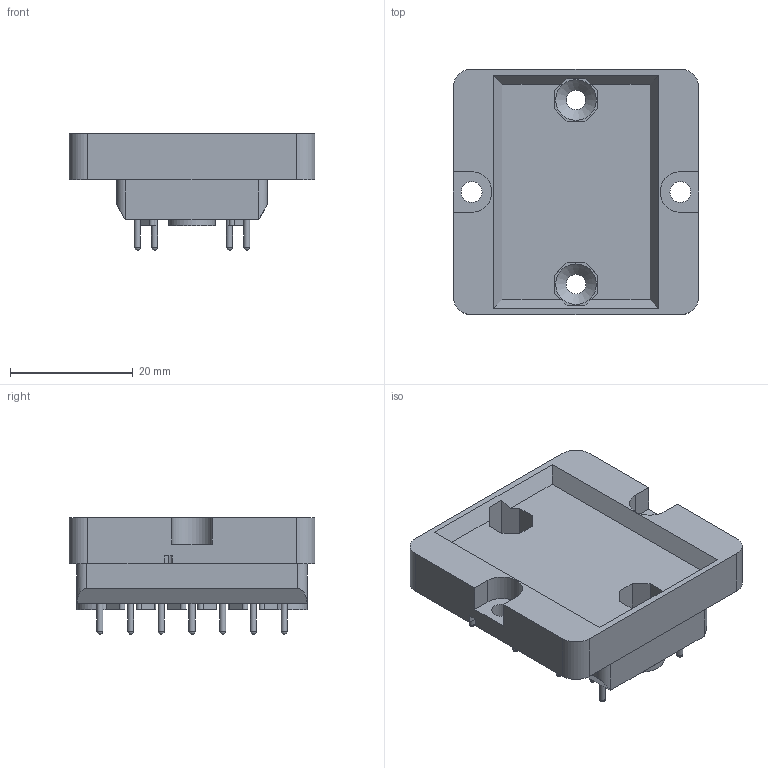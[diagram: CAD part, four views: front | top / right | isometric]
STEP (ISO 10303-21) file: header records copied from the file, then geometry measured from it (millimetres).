
FILE_DESCRIPTION((''),'2;1');
FILE_NAME('K:\TB\Bibliotheek\Inventor\Relais voeten\V32 voet\V32.stp','2008-08-19T11:39:17',('Niriawan'),(''),'Autodesk Inventor 2009','Autodesk Inventor 2009','');
FILE_SCHEMA(('AUTOMOTIVE_DESIGN { 1 0 10303 214 1 1 1 1 }'));
Length unit declared in the file: millimetre
Products named in the file (1): V32
Bounding box: 40 x 40 x 19 mm (x, y, z)
Volume: 13365 mm3; surface area: 7169 mm2
Topology: 1 solids, 1 shells, 212 faces, 570 edges, 380 vertices
Faces by surface type: plane 116, cylinder 80, sphere 14, cone 2
Full cylindrical faces by diameter (mm): 1 x14, 1.9 x4, 3.2 x2, 3.4 x2, 7.5 x2
Entity records: 6426 total; most frequent: DIRECTION 1088, CARTESIAN_POINT 1055, ORIENTED_EDGE 992, EDGE_CURVE 496, AXIS2_PLACEMENT_3D 379, VERTEX_POINT 346, VECTOR 330, LINE 330
